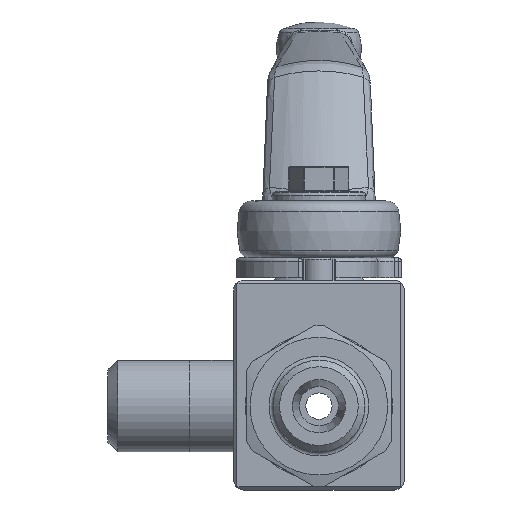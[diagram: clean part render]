
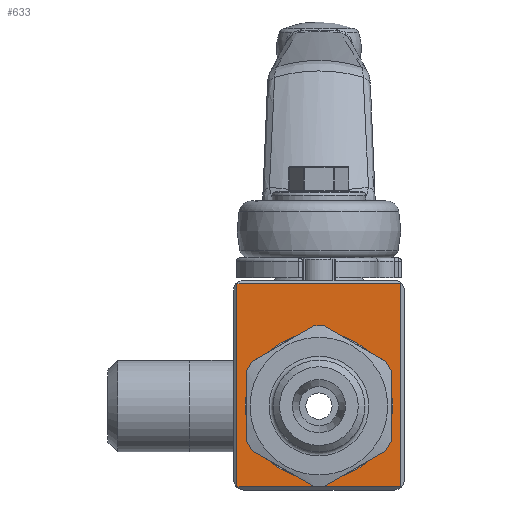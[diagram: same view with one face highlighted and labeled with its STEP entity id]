
A CAD part, front view. The second image highlights one B-rep face of the part: STEP entity #633.
In plain terms, the highlighted planar face has unit normal (0, -1, 0).
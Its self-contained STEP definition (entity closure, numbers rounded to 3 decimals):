
#633 = ADVANCED_FACE( '', ( #1509, #1510 ), #1511, .F. );
#1509 = FACE_BOUND( '', #2800, .T. );
#1510 = FACE_OUTER_BOUND( '', #2801, .T. );
#1511 = PLANE( '', #2802 );
#2800 = EDGE_LOOP( '', ( #5314 ) );
#2801 = EDGE_LOOP( '', ( #5315, #5316, #5317, #5318 ) );
#2802 = AXIS2_PLACEMENT_3D( '', #5319, #5320, #5321 );
#5314 = ORIENTED_EDGE( '', *, *, #8397, .T. );
#5315 = ORIENTED_EDGE( '', *, *, #8398, .T. );
#5316 = ORIENTED_EDGE( '', *, *, #8399, .T. );
#5317 = ORIENTED_EDGE( '', *, *, #8400, .T. );
#5318 = ORIENTED_EDGE( '', *, *, #8401, .T. );
#5319 = CARTESIAN_POINT( '', ( -13., -18.1, 19.2 ) );
#5320 = DIRECTION( '', ( 0., 1., 0. ) );
#5321 = DIRECTION( '', ( 0., 0., 1. ) );
#8397 = EDGE_CURVE( '', #9727, #9727, #9728, .T. );
#8398 = EDGE_CURVE( '', #9729, #9730, #9731, .T. );
#8399 = EDGE_CURVE( '', #9730, #9732, #9733, .T. );
#8400 = EDGE_CURVE( '', #9732, #9734, #9735, .T. );
#8401 = EDGE_CURVE( '', #9734, #9729, #9736, .T. );
#9727 = VERTEX_POINT( '', #11609 );
#9728 = CIRCLE( '', #11610, 11.25 );
#9729 = VERTEX_POINT( '', #11611 );
#9730 = VERTEX_POINT( '', #11612 );
#9731 = LINE( '', #11613, #11614 );
#9732 = VERTEX_POINT( '', #11615 );
#9733 = LINE( '', #11616, #11617 );
#9734 = VERTEX_POINT( '', #11618 );
#9735 = LINE( '', #11619, #11620 );
#9736 = LINE( '', #11621, #11622 );
#11609 = CARTESIAN_POINT( '', ( 0., -18.1, -11.25 ) );
#11610 = AXIS2_PLACEMENT_3D( '', #14898, #14899, #14900 );
#11611 = CARTESIAN_POINT( '', ( -12.5, -18.1, 18.7 ) );
#11612 = CARTESIAN_POINT( '', ( -12.5, -18.1, -12.3 ) );
#11613 = CARTESIAN_POINT( '', ( -12.5, -18.1, 19.2 ) );
#11614 = VECTOR( '', #14901, 1000. );
#11615 = CARTESIAN_POINT( '', ( 12.5, -18.1, -12.3 ) );
#11616 = CARTESIAN_POINT( '', ( -13., -18.1, -12.3 ) );
#11617 = VECTOR( '', #14902, 1000. );
#11618 = CARTESIAN_POINT( '', ( 12.5, -18.1, 18.7 ) );
#11619 = CARTESIAN_POINT( '', ( 12.5, -18.1, 19.2 ) );
#11620 = VECTOR( '', #14903, 1000. );
#11621 = CARTESIAN_POINT( '', ( -13., -18.1, 18.7 ) );
#11622 = VECTOR( '', #14904, 1000. );
#14898 = CARTESIAN_POINT( '', ( 0., -18.1, 0. ) );
#14899 = DIRECTION( '', ( 0., 1., 0. ) );
#14900 = DIRECTION( '', ( 0., 0., -1. ) );
#14901 = DIRECTION( '', ( 0., 0., -1. ) );
#14902 = DIRECTION( '', ( 1., 0., 0. ) );
#14903 = DIRECTION( '', ( 0., 0., 1. ) );
#14904 = DIRECTION( '', ( -1., 0., 0. ) );
